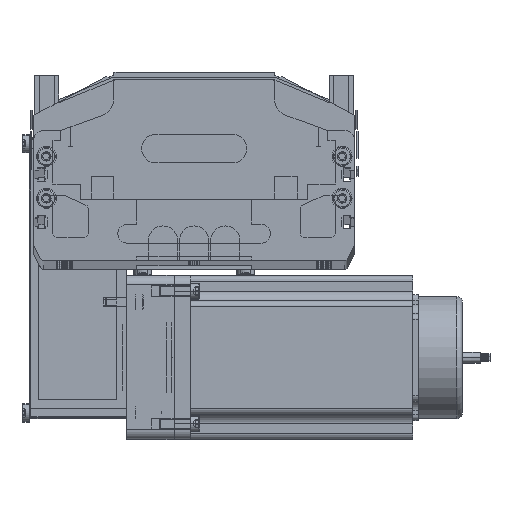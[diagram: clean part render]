
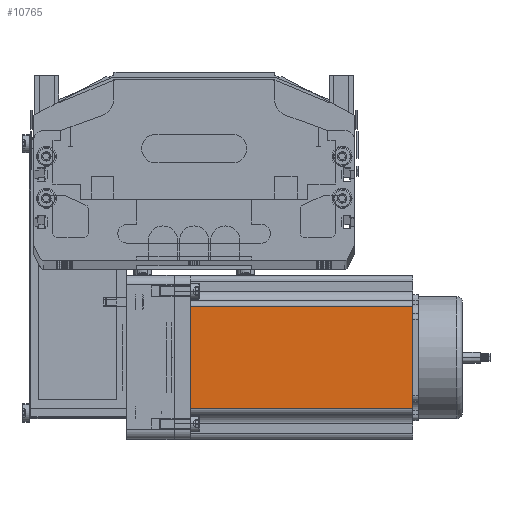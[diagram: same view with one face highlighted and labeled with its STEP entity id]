
A CAD part, top view. The second image highlights one B-rep face of the part: STEP entity #10765.
In plain terms, the highlighted planar face has unit normal (0, 0, 1) as drawn and (0, -1, 0) by its records, which use the part's own axes.
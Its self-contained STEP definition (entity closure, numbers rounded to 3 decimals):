
#10649 = ORIENTED_EDGE ( 'NONE', *, *, #10725, .F. ) ;
#10660 = ORIENTED_EDGE ( 'NONE', *, *, #10737, .T. ) ;
#10721 = VERTEX_POINT ( 'NONE', #21782 ) ;
#10724 = ORIENTED_EDGE ( 'NONE', *, *, #10745, .T. ) ;
#10725 = EDGE_CURVE ( 'NONE', #10766, #10721, #21757, .T. ) ;
#10729 = ORIENTED_EDGE ( 'NONE', *, *, #10736, .T. ) ;
#10736 = EDGE_CURVE ( 'NONE', #10768, #10746, #21964, .T. ) ;
#10737 = EDGE_CURVE ( 'NONE', #10766, #10768, #21894, .T. ) ;
#10743 = EDGE_LOOP ( 'NONE', ( #10729, #10724, #10649, #10660 ) ) ;
#10745 = EDGE_CURVE ( 'NONE', #10746, #10721, #21988, .T. ) ;
#10746 = VERTEX_POINT ( 'NONE', #21888 ) ;
#10765 = ADVANCED_FACE ( 'NONE', ( #21835 ), #21956, .F. ) ;
#10766 = VERTEX_POINT ( 'NONE', #21951 ) ;
#10768 = VERTEX_POINT ( 'NONE', #21947 ) ;
#20727 = DIRECTION ( 'NONE',  ( 1., 0., 0. ) ) ;
#21690 = VECTOR ( 'NONE', #20727, 1000. ) ;
#21691 = CARTESIAN_POINT ( 'NONE',  ( 0., 0., 116.5 ) ) ;
#21757 = LINE ( 'NONE', #21691, #21690 ) ;
#21782 = CARTESIAN_POINT ( 'NONE',  ( 69.74, 0., 116.5 ) ) ;
#21834 = CARTESIAN_POINT ( 'NONE',  ( 0., 0., 116.5 ) ) ;
#21835 = FACE_OUTER_BOUND ( 'NONE', #10743, .T. ) ;
#21841 = DIRECTION ( 'NONE',  ( 0., 1., 0. ) ) ;
#21888 = CARTESIAN_POINT ( 'NONE',  ( 69.74, 0., 0. ) ) ;
#21889 = DIRECTION ( 'NONE',  ( 0., 0., -1. ) ) ;
#21890 = VECTOR ( 'NONE', #21889, 1000. ) ;
#21892 = CARTESIAN_POINT ( 'NONE',  ( 16.16, 0., 116.5 ) ) ;
#21894 = LINE ( 'NONE', #21892, #21890 ) ;
#21938 = AXIS2_PLACEMENT_3D ( 'NONE', #21834, #21841, #21949 ) ;
#21947 = CARTESIAN_POINT ( 'NONE',  ( 16.16, 0., 0. ) ) ;
#21949 = DIRECTION ( 'NONE',  ( 0., 0., 1. ) ) ;
#21951 = CARTESIAN_POINT ( 'NONE',  ( 16.16, 0., 116.5 ) ) ;
#21956 = PLANE ( 'NONE',  #21938 ) ;
#21962 = VECTOR ( 'NONE', #22032, 1000. ) ;
#21963 = CARTESIAN_POINT ( 'NONE',  ( 0., 0., 0. ) ) ;
#21964 = LINE ( 'NONE', #21963, #21962 ) ;
#21984 = DIRECTION ( 'NONE',  ( 0., 0., 1. ) ) ;
#21985 = VECTOR ( 'NONE', #21984, 1000. ) ;
#21986 = CARTESIAN_POINT ( 'NONE',  ( 69.74, 0., 116.5 ) ) ;
#21988 = LINE ( 'NONE', #21986, #21985 ) ;
#22032 = DIRECTION ( 'NONE',  ( 1., 0., 0. ) ) ;
